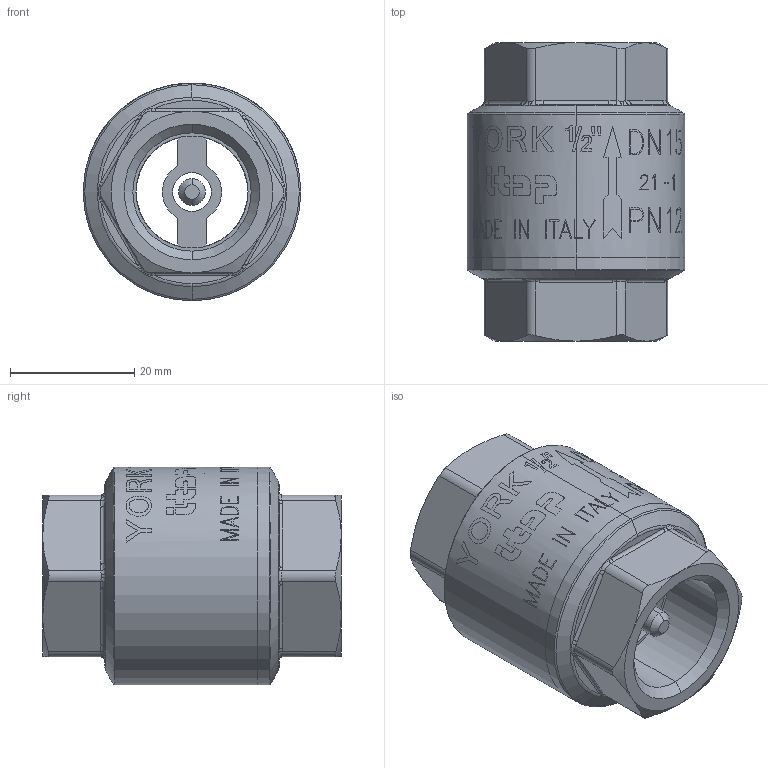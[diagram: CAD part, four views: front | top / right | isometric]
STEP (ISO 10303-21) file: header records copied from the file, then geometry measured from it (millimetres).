
FILE_DESCRIPTION (( 'STEP AP203' ), '1' );
FILE_NAME ('1030012.step', '2020-09-01T13:19:46', ( '' ), ( '' ), 'SwSTEP 2.0', 'SolidWorks 2018', '' );
FILE_SCHEMA (( 'CONFIG_CONTROL_DESIGN' ));
Length unit declared in the file: millimetre
Products named in the file (1): 1030012
Bounding box: 35 x 47.99 x 35 mm (x, y, z)
Surface area: 9423.3 mm2 (no closed solid volume)
Topology: 0 solids, 6 shells, 202 faces, 1030 edges, 871 vertices
Faces by surface type: cylinder 82, bspline 50, plane 29, cone 28, torus 13
Entity records: 14016 total; most frequent: CARTESIAN_POINT 6577, ORIENTED_EDGE 1970, EDGE_CURVE 1030, DIRECTION 1008, VERTEX_POINT 871, B_SPLINE_CURVE_WITH_KNOTS 591, AXIS2_PLACEMENT_3D 416, CIRCLE 263
